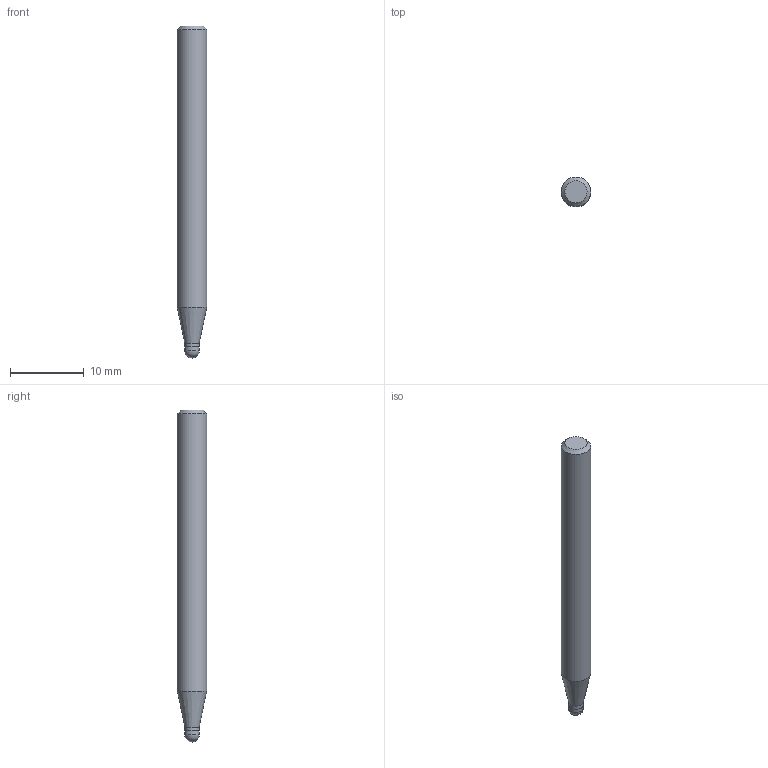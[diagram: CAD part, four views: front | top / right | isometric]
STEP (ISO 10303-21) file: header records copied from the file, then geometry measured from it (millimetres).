
FILE_DESCRIPTION((''),'2;1');
FILE_NAME('C:\Users\nsx150\AppData\Local\Temp\Mastercam 2021\ARV7HD45SN\TEMP.step','2023-06-13T16:37:13',(''),(''),'STEP Write','Mastercam 2021 ... CNC Software, Inc.','');
FILE_SCHEMA(('AUTOMOTIVE_DESIGN'));
Length unit declared in the file: millimetre
Products named in the file (1): None
Bounding box: 4 x 4 x 45 mm (x, y, z)
Volume: 518.1 mm3; surface area: 552.8 mm2
Topology: 2 solids, 2 shells, 9 faces, 14 edges, 8 vertices
Faces by surface type: plane 3, cylinder 3, cone 2, sphere 1
Full cylindrical faces by diameter (mm): 1.94 x1, 2 x1, 4 x1
Entity records: 211 total; most frequent: DIRECTION 36, CARTESIAN_POINT 25, AXIS2_PLACEMENT_3D 18, ORIENTED_EDGE 14, EDGE_LOOP 14, STYLED_ITEM 12, ADVANCED_FACE 9, FACE_BOUND 8
